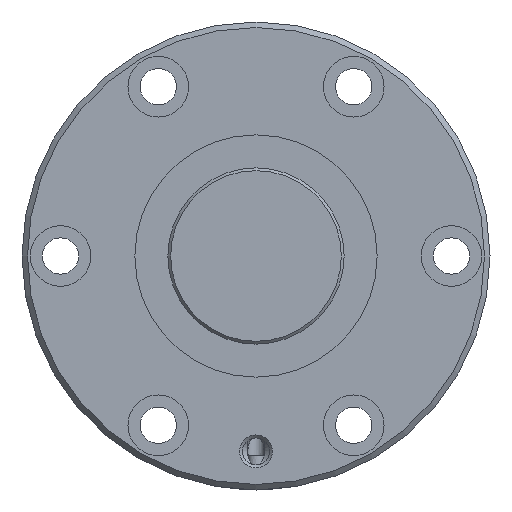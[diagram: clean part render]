
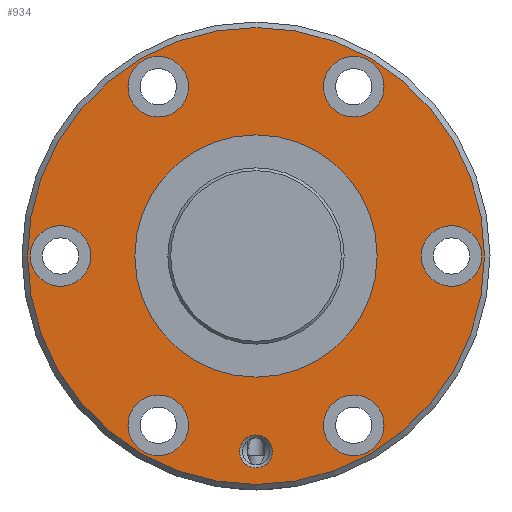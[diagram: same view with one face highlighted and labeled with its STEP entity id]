
A CAD part, left-side view. The second image highlights one B-rep face of the part: STEP entity #934.
In plain terms, the highlighted planar face has unit normal (-1, 0, 0).
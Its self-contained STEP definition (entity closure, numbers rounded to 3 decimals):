
#97=PLANE('',#1044);
#156=ORIENTED_EDGE('',*,*,#358,.T.);
#157=ORIENTED_EDGE('',*,*,#359,.T.);
#158=ORIENTED_EDGE('',*,*,#360,.T.);
#159=ORIENTED_EDGE('',*,*,#361,.T.);
#160=ORIENTED_EDGE('',*,*,#362,.T.);
#161=ORIENTED_EDGE('',*,*,#363,.T.);
#162=ORIENTED_EDGE('',*,*,#364,.T.);
#163=ORIENTED_EDGE('',*,*,#365,.T.);
#164=ORIENTED_EDGE('',*,*,#357,.F.);
#357=EDGE_CURVE('',#463,#463,#548,.T.);
#358=EDGE_CURVE('',#464,#464,#549,.T.);
#359=EDGE_CURVE('',#465,#465,#550,.F.);
#360=EDGE_CURVE('',#466,#466,#551,.T.);
#361=EDGE_CURVE('',#467,#467,#552,.T.);
#362=EDGE_CURVE('',#468,#468,#553,.T.);
#363=EDGE_CURVE('',#469,#469,#554,.T.);
#364=EDGE_CURVE('',#470,#470,#555,.T.);
#365=EDGE_CURVE('',#471,#471,#556,.T.);
#463=VERTEX_POINT('',#1564);
#464=VERTEX_POINT('',#1567);
#465=VERTEX_POINT('',#1569);
#466=VERTEX_POINT('',#1571);
#467=VERTEX_POINT('',#1573);
#468=VERTEX_POINT('',#1575);
#469=VERTEX_POINT('',#1577);
#470=VERTEX_POINT('',#1579);
#471=VERTEX_POINT('',#1581);
#548=CIRCLE('',#1043,41.5);
#549=CIRCLE('',#1045,22.);
#550=CIRCLE('',#1046,5.5);
#551=CIRCLE('',#1047,3.);
#552=CIRCLE('',#1048,5.5);
#553=CIRCLE('',#1049,5.5);
#554=CIRCLE('',#1050,5.5);
#555=CIRCLE('',#1051,5.5);
#556=CIRCLE('',#1052,5.5);
#631=EDGE_LOOP('',(#156));
#632=EDGE_LOOP('',(#157));
#633=EDGE_LOOP('',(#158));
#634=EDGE_LOOP('',(#159));
#635=EDGE_LOOP('',(#160));
#636=EDGE_LOOP('',(#161));
#637=EDGE_LOOP('',(#162));
#638=EDGE_LOOP('',(#163));
#639=EDGE_LOOP('',(#164));
#773=FACE_BOUND('',#631,.T.);
#774=FACE_BOUND('',#632,.T.);
#775=FACE_BOUND('',#633,.T.);
#776=FACE_BOUND('',#634,.T.);
#777=FACE_BOUND('',#635,.T.);
#778=FACE_BOUND('',#636,.T.);
#779=FACE_BOUND('',#637,.T.);
#780=FACE_BOUND('',#638,.T.);
#781=FACE_BOUND('',#639,.T.);
#934=ADVANCED_FACE('',(#773,#774,#775,#776,#777,#778,#779,#780,#781),#97,
 .T.);
#1043=AXIS2_PLACEMENT_3D('',#1563,#1217,#1218);
#1044=AXIS2_PLACEMENT_3D('',#1565,#1219,#1220);
#1045=AXIS2_PLACEMENT_3D('',#1566,#1221,#1222);
#1046=AXIS2_PLACEMENT_3D('',#1568,#1223,#1224);
#1047=AXIS2_PLACEMENT_3D('',#1570,#1225,#1226);
#1048=AXIS2_PLACEMENT_3D('',#1572,#1227,#1228);
#1049=AXIS2_PLACEMENT_3D('',#1574,#1229,#1230);
#1050=AXIS2_PLACEMENT_3D('',#1576,#1231,#1232);
#1051=AXIS2_PLACEMENT_3D('',#1578,#1233,#1234);
#1052=AXIS2_PLACEMENT_3D('',#1580,#1235,#1236);
#1217=DIRECTION('',(1.,0.,0.));
#1218=DIRECTION('',(0.,0.,-1.));
#1219=DIRECTION('',(-1.,0.,0.));
#1220=DIRECTION('',(0.,0.,1.));
#1221=DIRECTION('',(1.,0.,0.));
#1222=DIRECTION('',(0.,0.,-1.));
#1223=DIRECTION('',(-1.,0.,0.));
#1224=DIRECTION('',(0.,0.,1.));
#1225=DIRECTION('',(1.,0.,0.));
#1226=DIRECTION('',(0.,0.,-1.));
#1227=DIRECTION('',(1.,0.,0.));
#1228=DIRECTION('',(0.,0.,-1.));
#1229=DIRECTION('',(1.,0.,0.));
#1230=DIRECTION('',(0.,0.,-1.));
#1231=DIRECTION('',(1.,0.,0.));
#1232=DIRECTION('',(0.,0.,-1.));
#1233=DIRECTION('',(1.,0.,0.));
#1234=DIRECTION('',(0.,0.,-1.));
#1235=DIRECTION('',(1.,0.,0.));
#1236=DIRECTION('',(0.,0.,-1.));
#1563=CARTESIAN_POINT('',(0.,0.,0.));
#1564=CARTESIAN_POINT('',(0.,0.,-41.5));
#1565=CARTESIAN_POINT('',(0.,41.5,0.));
#1566=CARTESIAN_POINT('',(0.,0.,0.));
#1567=CARTESIAN_POINT('',(0.,0.,-22.));
#1568=CARTESIAN_POINT('',(0.,35.5,0.));
#1569=CARTESIAN_POINT('',(0.,35.5,5.5));
#1570=CARTESIAN_POINT('',(0.,0.,-35.5));
#1571=CARTESIAN_POINT('',(0.,0.,-38.5));
#1572=CARTESIAN_POINT('',(0.,-35.5,0.));
#1573=CARTESIAN_POINT('',(0.,-35.5,-5.5));
#1574=CARTESIAN_POINT('',(0.,17.75,30.744));
#1575=CARTESIAN_POINT('',(0.,17.75,25.244));
#1576=CARTESIAN_POINT('',(0.,-17.75,-30.744));
#1577=CARTESIAN_POINT('',(0.,-17.75,-36.244));
#1578=CARTESIAN_POINT('',(0.,-17.75,30.744));
#1579=CARTESIAN_POINT('',(0.,-17.75,25.244));
#1580=CARTESIAN_POINT('',(0.,17.75,-30.744));
#1581=CARTESIAN_POINT('',(0.,17.75,-36.244));
